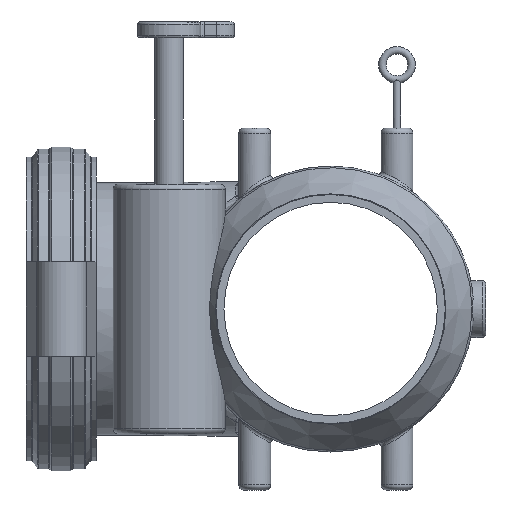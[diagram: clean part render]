
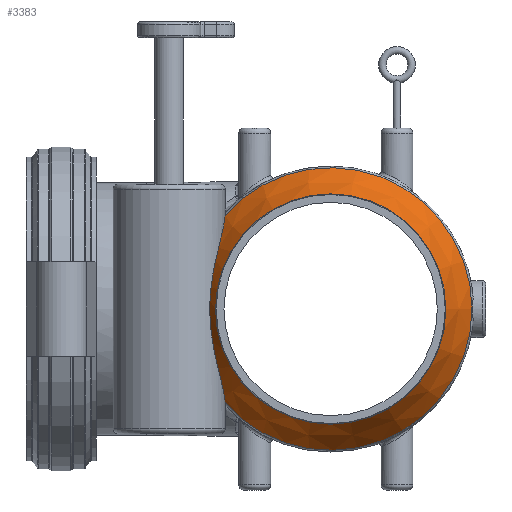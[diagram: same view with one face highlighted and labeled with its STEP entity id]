
A CAD part, left-side view. The second image highlights one B-rep face of the part: STEP entity #3383.
In plain terms, the highlighted conical face has half-angle 30 degrees and reference radius 128.693 mm.
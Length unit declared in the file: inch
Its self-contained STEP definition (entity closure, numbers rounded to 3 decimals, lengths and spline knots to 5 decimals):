
#80=CONICAL_SURFACE('',#3758,5.06666,0.524);
#368=FACE_OUTER_BOUND('',#567,.T.);
#567=EDGE_LOOP('',(#2833,#2834,#2835,#2836,#2837,#2838,#2839,#2840));
#779=CIRCLE('',#3759,4.55046);
#780=CIRCLE('',#3760,4.55046);
#781=CIRCLE('',#3761,5.58286);
#782=CIRCLE('',#3762,5.58286);
#783=CIRCLE('',#3763,4.55046);
#954=LINE('',#7680,#1092);
#1092=VECTOR('',#4647,5.06666);
#1191=B_SPLINE_CURVE_WITH_KNOTS('',3,(#7486,#7487,#7488,#7489,#7490,#7491,
#7492,#7493,#7494,#7495,#7496,#7497,#7498,#7499,#7500,#7501,#7502,#7503,
#7504,#7505,#7506,#7507,#7508,#7509,#7510,#7511,#7512,#7513,#7514,#7515),
 .UNSPECIFIED.,.F.,.F.,(4,2,2,2,2,2,2,2,2,2,2,2,2,2,4),(17.98341,
18.478,20.89581,23.31361,24.52251,25.73142,
26.94032,28.14922,29.35812,30.56702,31.77593,
32.98483,35.40263,37.82043,38.31503),
 .UNSPECIFIED.);
#1433=VERTEX_POINT('',#7476);
#1434=VERTEX_POINT('',#7485);
#1461=VERTEX_POINT('',#7674);
#1462=VERTEX_POINT('',#7675);
#1463=VERTEX_POINT('',#7677);
#1464=VERTEX_POINT('',#7679);
#1875=EDGE_CURVE('',#1434,#1433,#1191,.T.);
#1932=EDGE_CURVE('',#1461,#1462,#779,.T.);
#1933=EDGE_CURVE('',#1463,#1461,#780,.T.);
#1934=EDGE_CURVE('',#1463,#1464,#954,.T.);
#1935=EDGE_CURVE('',#1464,#1434,#781,.T.);
#1936=EDGE_CURVE('',#1433,#1464,#782,.T.);
#1937=EDGE_CURVE('',#1462,#1463,#783,.T.);
#2833=ORIENTED_EDGE('',*,*,#1932,.F.);
#2834=ORIENTED_EDGE('',*,*,#1933,.F.);
#2835=ORIENTED_EDGE('',*,*,#1934,.T.);
#2836=ORIENTED_EDGE('',*,*,#1935,.T.);
#2837=ORIENTED_EDGE('',*,*,#1875,.T.);
#2838=ORIENTED_EDGE('',*,*,#1936,.T.);
#2839=ORIENTED_EDGE('',*,*,#1934,.F.);
#2840=ORIENTED_EDGE('',*,*,#1937,.F.);
#3383=ADVANCED_FACE('',(#368),#80,.T.);
#3758=AXIS2_PLACEMENT_3D('',#7673,#4641,#4642);
#3759=AXIS2_PLACEMENT_3D('',#7676,#4643,#4644);
#3760=AXIS2_PLACEMENT_3D('',#7678,#4645,#4646);
#3761=AXIS2_PLACEMENT_3D('',#7681,#4648,#4649);
#3762=AXIS2_PLACEMENT_3D('',#7682,#4650,#4651);
#3763=AXIS2_PLACEMENT_3D('',#7683,#4652,#4653);
#4641=DIRECTION('center_axis',(1.,0.,0.));
#4642=DIRECTION('ref_axis',(0.,1.,0.));
#4643=DIRECTION('center_axis',(-1.,0.,0.));
#4644=DIRECTION('ref_axis',(0.,0.,1.));
#4645=DIRECTION('center_axis',(-1.,0.,0.));
#4646=DIRECTION('ref_axis',(0.,0.,1.));
#4647=DIRECTION('',(0.866,-0.5,0.));
#4648=DIRECTION('center_axis',(-1.,0.,0.));
#4649=DIRECTION('ref_axis',(0.,0.,1.));
#4650=DIRECTION('center_axis',(-1.,0.,0.));
#4651=DIRECTION('ref_axis',(0.,0.,1.));
#4652=DIRECTION('center_axis',(-1.,0.,0.));
#4653=DIRECTION('ref_axis',(0.,0.,1.));
#7476=CARTESIAN_POINT('',(-5.19628,4.17306,-3.70863));
#7485=CARTESIAN_POINT('',(-5.19628,4.17306,3.70863));
#7486=CARTESIAN_POINT('Ctrl Pts',(-5.19628,4.17306,3.70863));
#7487=CARTESIAN_POINT('Ctrl Pts',(-5.24593,4.17568,3.66254));
#7488=CARTESIAN_POINT('Ctrl Pts',(-5.2935,4.17987,3.61594));
#7489=CARTESIAN_POINT('Ctrl Pts',(-5.55912,4.21117,3.34292));
#7490=CARTESIAN_POINT('Ctrl Pts',(-5.75287,4.26758,3.08913));
#7491=CARTESIAN_POINT('Ctrl Pts',(-6.07883,4.40075,2.5384));
#7492=CARTESIAN_POINT('Ctrl Pts',(-6.21076,4.47726,2.24124));
#7493=CARTESIAN_POINT('Ctrl Pts',(-6.36296,4.57949,1.77588));
#7494=CARTESIAN_POINT('Ctrl Pts',(-6.40622,4.61157,1.61741));
#7495=CARTESIAN_POINT('Ctrl Pts',(-6.47881,4.66841,1.29649));
#7496=CARTESIAN_POINT('Ctrl Pts',(-6.50815,4.69316,1.13404));
#7497=CARTESIAN_POINT('Ctrl Pts',(-6.55413,4.7332,0.80817));
#7498=CARTESIAN_POINT('Ctrl Pts',(-6.57079,4.74848,0.64473));
#7499=CARTESIAN_POINT('Ctrl Pts',(-6.59264,4.76872,0.31997));
#7500=CARTESIAN_POINT('Ctrl Pts',(-6.59784,4.77368,0.15865));
#7501=CARTESIAN_POINT('Ctrl Pts',(-6.59784,4.77368,-0.15865));
#7502=CARTESIAN_POINT('Ctrl Pts',(-6.59264,4.76872,-0.31997));
#7503=CARTESIAN_POINT('Ctrl Pts',(-6.57079,4.74848,-0.64473));
#7504=CARTESIAN_POINT('Ctrl Pts',(-6.55413,4.7332,-0.80817));
#7505=CARTESIAN_POINT('Ctrl Pts',(-6.50815,4.69316,-1.13404));
#7506=CARTESIAN_POINT('Ctrl Pts',(-6.47881,4.66841,-1.29649));
#7507=CARTESIAN_POINT('Ctrl Pts',(-6.40622,4.61157,-1.61741));
#7508=CARTESIAN_POINT('Ctrl Pts',(-6.36296,4.57949,-1.77588));
#7509=CARTESIAN_POINT('Ctrl Pts',(-6.21076,4.47726,-2.24124));
#7510=CARTESIAN_POINT('Ctrl Pts',(-6.07883,4.40075,-2.5384));
#7511=CARTESIAN_POINT('Ctrl Pts',(-5.75287,4.26758,-3.08913));
#7512=CARTESIAN_POINT('Ctrl Pts',(-5.55912,4.21117,-3.34292));
#7513=CARTESIAN_POINT('Ctrl Pts',(-5.2935,4.17987,-3.61594));
#7514=CARTESIAN_POINT('Ctrl Pts',(-5.24593,4.17568,-3.66254));
#7515=CARTESIAN_POINT('Ctrl Pts',(-5.19628,4.17306,-3.70863));
#7673=CARTESIAN_POINT('Origin',(-6.09038,0.,0.));
#7674=CARTESIAN_POINT('',(-6.98447,4.55046,0.));
#7675=CARTESIAN_POINT('',(-6.98447,0.,-4.55046));
#7676=CARTESIAN_POINT('Origin',(-6.98447,0.,0.));
#7677=CARTESIAN_POINT('',(-6.98447,-4.55046,0.));
#7678=CARTESIAN_POINT('Origin',(-6.98447,0.,0.));
#7679=CARTESIAN_POINT('',(-5.19628,-5.58286,0.));
#7680=CARTESIAN_POINT('',(-6.09038,-5.06666,0.));
#7681=CARTESIAN_POINT('Origin',(-5.19628,0.,0.));
#7682=CARTESIAN_POINT('Origin',(-5.19628,0.,0.));
#7683=CARTESIAN_POINT('Origin',(-6.98447,0.,0.));
